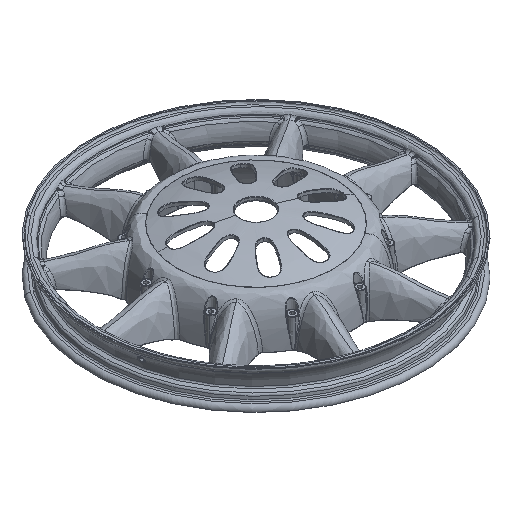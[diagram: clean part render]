
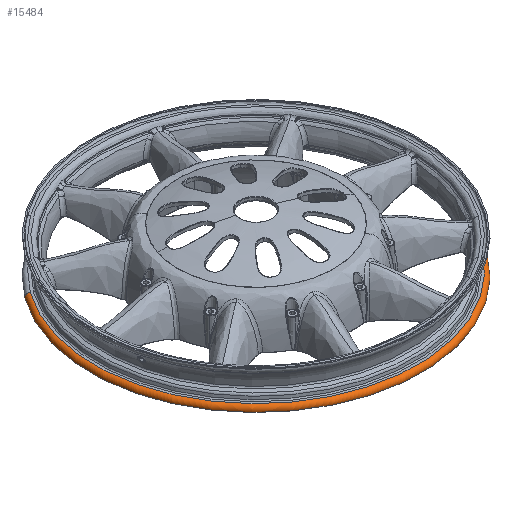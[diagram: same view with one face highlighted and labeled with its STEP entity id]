
A CAD part, isometric view. The second image highlights one B-rep face of the part: STEP entity #15484.
In plain terms, the highlighted toroidal (fillet/blend) face has major radius 207.5 mm and minor radius 5 mm.
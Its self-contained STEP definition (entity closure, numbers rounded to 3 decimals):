
#7817 = ORIENTED_EDGE ( 'NONE', *, *, #108554, .F. ) ;
#11044 = DIRECTION ( 'NONE',  ( 0., 0., 1. ) ) ;
#15484 = ADVANCED_FACE ( 'NONE', ( #33653 ), #102803, .T. ) ;
#23147 = DIRECTION ( 'NONE',  ( 0.809, -0.588, 0. ) ) ;
#23638 = DIRECTION ( 'NONE',  ( 0.809, -0.588, 0. ) ) ;
#28886 = CARTESIAN_POINT ( 'NONE',  ( -167.871, 121.965, -22.5 ) ) ;
#30892 = AXIS2_PLACEMENT_3D ( 'NONE', #152373, #44878, #156109 ) ;
#33653 = FACE_OUTER_BOUND ( 'NONE', #42046, .T. ) ;
#35735 = CARTESIAN_POINT ( 'NONE',  ( 167.871, -121.965, -22.5 ) ) ;
#38580 = CIRCLE ( 'NONE', #30892, 207.5 ) ;
#39678 = AXIS2_PLACEMENT_3D ( 'NONE', #28886, #117519, #78876 ) ;
#40953 = AXIS2_PLACEMENT_3D ( 'NONE', #144087, #11044, #23147 ) ;
#42046 = EDGE_LOOP ( 'NONE', ( #92925, #110017, #147637, #7817 ) ) ;
#42723 = CIRCLE ( 'NONE', #153761, 212.27 ) ;
#44878 = DIRECTION ( 'NONE',  ( 0., 0., 1. ) ) ;
#51768 = VERTEX_POINT ( 'NONE', #157876 ) ;
#56742 = VERTEX_POINT ( 'NONE', #112184 ) ;
#61688 = EDGE_CURVE ( 'NONE', #56742, #66984, #85984, .T. ) ;
#66984 = VERTEX_POINT ( 'NONE', #113559 ) ;
#68524 = EDGE_CURVE ( 'NONE', #51768, #158135, #145096, .T. ) ;
#74054 = DIRECTION ( 'NONE',  ( 0., 0., 1. ) ) ;
#74849 = CARTESIAN_POINT ( 'NONE',  ( 0., 0., -24. ) ) ;
#78876 = DIRECTION ( 'NONE',  ( -0.809, 0.588, 0. ) ) ;
#85984 = CIRCLE ( 'NONE', #39678, 5. ) ;
#86948 = DIRECTION ( 'NONE',  ( 0.809, -0.588, 0. ) ) ;
#92925 = ORIENTED_EDGE ( 'NONE', *, *, #61688, .F. ) ;
#102803 = TOROIDAL_SURFACE ( 'NONE', #40953, 207.5, 5. ) ;
#108554 = EDGE_CURVE ( 'NONE', #66984, #158135, #38580, .T. ) ;
#110017 = ORIENTED_EDGE ( 'NONE', *, *, #116700, .T. ) ;
#112184 = CARTESIAN_POINT ( 'NONE',  ( -171.73, 124.769, -24. ) ) ;
#113559 = CARTESIAN_POINT ( 'NONE',  ( -167.871, 121.965, -17.5 ) ) ;
#113895 = CARTESIAN_POINT ( 'NONE',  ( 167.871, -121.965, -17.5 ) ) ;
#116700 = EDGE_CURVE ( 'NONE', #56742, #51768, #42723, .T. ) ;
#117519 = DIRECTION ( 'NONE',  ( 0.588, 0.809, 0. ) ) ;
#127064 = AXIS2_PLACEMENT_3D ( 'NONE', #35735, #158285, #23638 ) ;
#144087 = CARTESIAN_POINT ( 'NONE',  ( 0., 0., -22.5 ) ) ;
#145096 = CIRCLE ( 'NONE', #127064, 5. ) ;
#147637 = ORIENTED_EDGE ( 'NONE', *, *, #68524, .T. ) ;
#152373 = CARTESIAN_POINT ( 'NONE',  ( 0., 0., -17.5 ) ) ;
#153761 = AXIS2_PLACEMENT_3D ( 'NONE', #74849, #74054, #86948 ) ;
#156109 = DIRECTION ( 'NONE',  ( 0.809, -0.588, 0. ) ) ;
#157876 = CARTESIAN_POINT ( 'NONE',  ( 171.73, -124.769, -24. ) ) ;
#158135 = VERTEX_POINT ( 'NONE', #113895 ) ;
#158285 = DIRECTION ( 'NONE',  ( -0.588, -0.809, 0. ) ) ;
